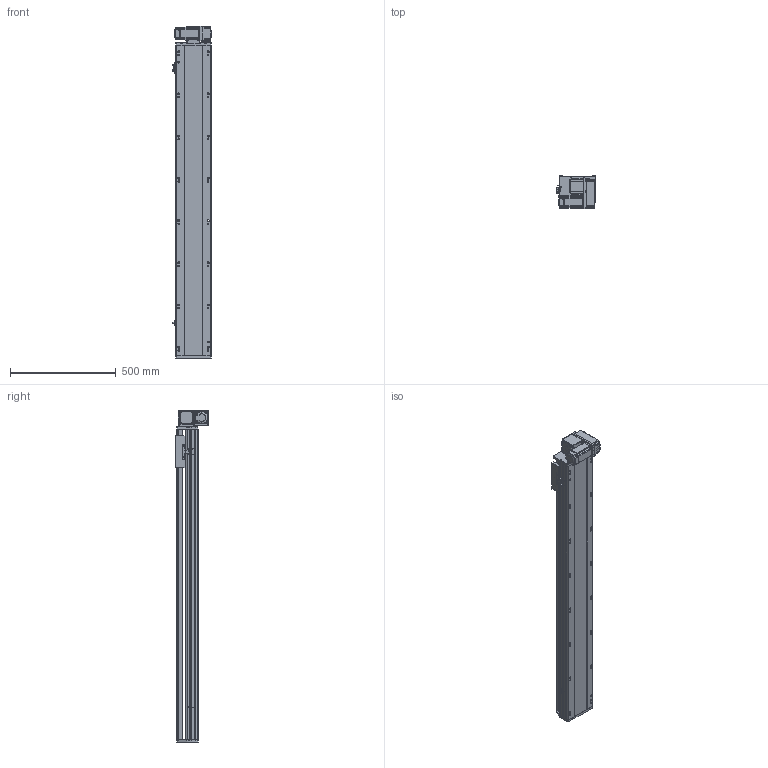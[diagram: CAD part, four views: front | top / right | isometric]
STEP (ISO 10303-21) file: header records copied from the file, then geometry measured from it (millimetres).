
FILE_DESCRIPTION (( 'STEP AP214' ), '1' );
FILE_NAME ('RTB17S-XX-1200-RM-M40-C4.STEP', '2025-12-11T08:17:38', ( '' ), ( '' ), 'SwSTEP 2.0', 'SolidWorks 2018', '' );
FILE_SCHEMA (( 'AUTOMOTIVE_DESIGN' ));
Length unit declared in the file: millimetre
Products named in the file (14): RTB17S-L-014-T20--々湍釱^RTB17S-RM-々湍釱蚾饜-400W_RTB17S-XX-XX-RM-M40-C4; RTH13-BL-012覜茼え俋离^RTB17S-XX-XX-RM-M40-C4; RTB17S-RM-々湍釱蚾饜-400W^RTB17S-XX-XX-RM-M40-C4; RTB14-L-005P--轴承塑胶压盖^RTB17S-RM-皮带座装配-400W_RTB17S-XX-XX-RM-M40-C4; 400W侜督萇儂^RTB17S-XX-XX-RM-M40-C4; RTB17S-L-001耜醱啣^RTB17S-XX-XX-RM-M40-C4; RTB14-L-017P^RTB17S-RM-々湍釱蚾饜-400W_RTB17S-XX-XX-RM-M40-C4; RTB14-L-008-M20--萇儂啣^RTB17S-RM-々湍釱蚾饜-400W_RTB17S-XX-XX-RM-M40-C4; RTB17S-XX-1200-RM-M40-C4; RTB14-L-018P^RTB17S-RM-々湍釱蚾饜-400W_RTB17S-XX-XX-RM-M40-C4; OMRON EE-SX672 传感器^RTB17S-XX-XX-RM-M40-C4; RTB17S-L-004佪裝蹟譫蟀諉釱^RTB17S-XX-XX-RM-M40-C4; RTB17S-L-007奻裔^RTB17S-XX-XX-RM-M40-C4; RTB17-R-011菁釱^RTB17S-XX-XX-RM-M40-C4
Assembly tree (16 placements, depth 3):
  RTB17S-XX-1200-RM-M40-C4
    RTB17-R-011菁釱^RTB17S-XX-XX-RM-M40-C4
    RTB17S-L-007奻裔^RTB17S-XX-XX-RM-M40-C4
    OMRON EE-SX672 传感器^RTB17S-XX-XX-RM-M40-C4  x3
    RTB17S-L-001耜醱啣^RTB17S-XX-XX-RM-M40-C4
    400W侜督萇儂^RTB17S-XX-XX-RM-M40-C4
    RTB17S-L-004佪裝蹟譫蟀諉釱^RTB17S-XX-XX-RM-M40-C4
    RTH13-BL-012覜茼え俋离^RTB17S-XX-XX-RM-M40-C4
    RTB17S-RM-々湍釱蚾饜-400W^RTB17S-XX-XX-RM-M40-C4
      RTB17S-L-014-T20--々湍釱^RTB17S-RM-々湍釱蚾饜-400W_RTB17S-XX-XX-RM-M40-C4
      RTB14-L-005P--轴承塑胶压盖^RTB17S-RM-皮带座装配-400W_RTB17S-XX-XX-RM-M40-C4
      RTB14-L-008-M20--萇儂啣^RTB17S-RM-々湍釱蚾饜-400W_RTB17S-XX-XX-RM-M40-C4
      RTB14-L-017P^RTB17S-RM-々湍釱蚾饜-400W_RTB17S-XX-XX-RM-M40-C4  x2
      RTB14-L-018P^RTB17S-RM-々湍釱蚾饜-400W_RTB17S-XX-XX-RM-M40-C4
Bounding box: 183.5 x 156.5 x 1572.5 mm (x, y, z)
Volume: 14007968.5 mm3; surface area: 1675023.8 mm2
Topology: 15 solids, 15 shells, 2221 faces, 6141 edges, 4005 vertices
Faces by surface type: plane 1070, cylinder 703, bspline 301, cone 139, torus 8
Entity records: 63401 total; most frequent: CARTESIAN_POINT 17746, ORIENTED_EDGE 9126, DIRECTION 8486, EDGE_CURVE 4563, VERTEX_POINT 2993, AXIS2_PLACEMENT_3D 2923, LINE 2640, VECTOR 2640
